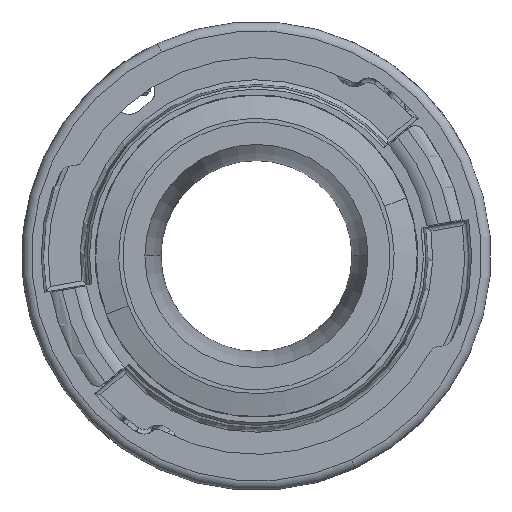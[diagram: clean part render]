
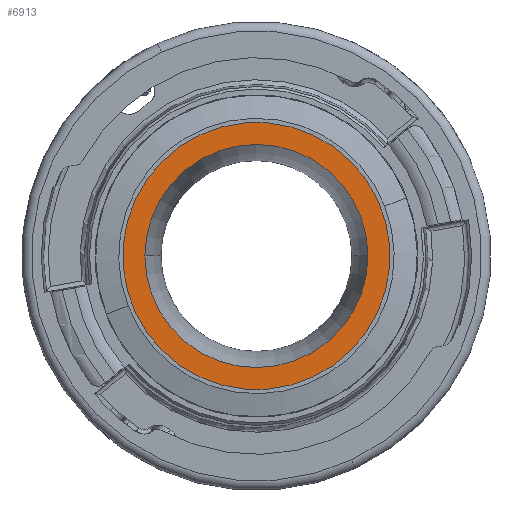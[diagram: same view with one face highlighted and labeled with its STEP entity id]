
A CAD part, left-side view. The second image highlights one B-rep face of the part: STEP entity #6913.
In plain terms, the highlighted planar face has unit normal (-1, 0, 0).
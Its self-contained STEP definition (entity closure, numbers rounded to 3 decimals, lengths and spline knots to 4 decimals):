
#216 = FACE_BOUND ( 'NONE', #50564, .T. ) ;
#463 = CIRCLE ( 'NONE', #25889, 1.845 ) ;
#3480 = CARTESIAN_POINT ( 'NONE',  ( -0.99, -1.845, 0. ) ) ;
#6913 = ADVANCED_FACE ( 'NONE', ( #41761, #216 ), #38869, .F. ) ;
#7004 = VERTEX_POINT ( 'NONE', #26263 ) ;
#7795 = ORIENTED_EDGE ( 'NONE', *, *, #47691, .F. ) ;
#9623 = DIRECTION ( 'NONE',  ( 1., 0., 0. ) ) ;
#12671 = AXIS2_PLACEMENT_3D ( 'NONE', #25322, #21505, #39248 ) ;
#13590 = EDGE_CURVE ( 'NONE', #7004, #46630, #48449, .T. ) ;
#21505 = DIRECTION ( 'NONE',  ( 1., 0., 0. ) ) ;
#22922 = DIRECTION ( 'NONE',  ( 0., 1., 0. ) ) ;
#24266 = CARTESIAN_POINT ( 'NONE',  ( -0.99, 0., 0. ) ) ;
#24387 = AXIS2_PLACEMENT_3D ( 'NONE', #24266, #49844, #32099 ) ;
#24920 = AXIS2_PLACEMENT_3D ( 'NONE', #31493, #9623, #44316 ) ;
#25322 = CARTESIAN_POINT ( 'NONE',  ( -0.99, 0., 1.845 ) ) ;
#25889 = AXIS2_PLACEMENT_3D ( 'NONE', #26184, #30198, #29819 ) ;
#26184 = CARTESIAN_POINT ( 'NONE',  ( -0.99, 0., 0. ) ) ;
#26263 = CARTESIAN_POINT ( 'NONE',  ( -0.99, -1.4609, 0. ) ) ;
#27047 = CARTESIAN_POINT ( 'NONE',  ( -0.99, 1.845, 0. ) ) ;
#29819 = DIRECTION ( 'NONE',  ( 0., 1., 0. ) ) ;
#30198 = DIRECTION ( 'NONE',  ( 1., 0., 0. ) ) ;
#31493 = CARTESIAN_POINT ( 'NONE',  ( -0.99, 0., 0. ) ) ;
#32099 = DIRECTION ( 'NONE',  ( 0., 1., 0. ) ) ;
#32520 = VERTEX_POINT ( 'NONE', #27047 ) ;
#33795 = ORIENTED_EDGE ( 'NONE', *, *, #13590, .T. ) ;
#35742 = EDGE_CURVE ( 'NONE', #46630, #7004, #41579, .T. ) ;
#36277 = CIRCLE ( 'NONE', #24387, 1.845 ) ;
#38869 = PLANE ( 'NONE',  #12671 ) ;
#39248 = DIRECTION ( 'NONE',  ( 0., 1., 0. ) ) ;
#40301 = DIRECTION ( 'NONE',  ( 1., 0., 0. ) ) ;
#40446 = VERTEX_POINT ( 'NONE', #3480 ) ;
#41518 = ORIENTED_EDGE ( 'NONE', *, *, #35742, .T. ) ;
#41538 = ORIENTED_EDGE ( 'NONE', *, *, #56044, .F. ) ;
#41579 = CIRCLE ( 'NONE', #24920, 1.4609 ) ;
#41761 = FACE_OUTER_BOUND ( 'NONE', #53613, .T. ) ;
#44316 = DIRECTION ( 'NONE',  ( 0., 1., 0. ) ) ;
#46630 = VERTEX_POINT ( 'NONE', #50378 ) ;
#47691 = EDGE_CURVE ( 'NONE', #32520, #40446, #463, .T. ) ;
#48449 = CIRCLE ( 'NONE', #48737, 1.4609 ) ;
#48737 = AXIS2_PLACEMENT_3D ( 'NONE', #49078, #40301, #22922 ) ;
#49078 = CARTESIAN_POINT ( 'NONE',  ( -0.99, 0., 0. ) ) ;
#49844 = DIRECTION ( 'NONE',  ( 1., 0., 0. ) ) ;
#50378 = CARTESIAN_POINT ( 'NONE',  ( -0.99, 1.4609, 0. ) ) ;
#50564 = EDGE_LOOP ( 'NONE', ( #41518, #33795 ) ) ;
#53613 = EDGE_LOOP ( 'NONE', ( #7795, #41538 ) ) ;
#56044 = EDGE_CURVE ( 'NONE', #40446, #32520, #36277, .T. ) ;
